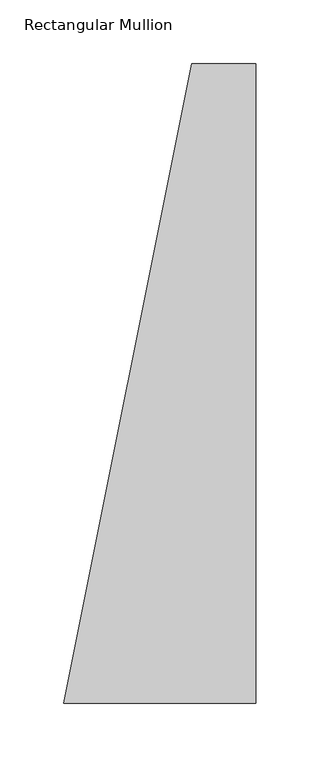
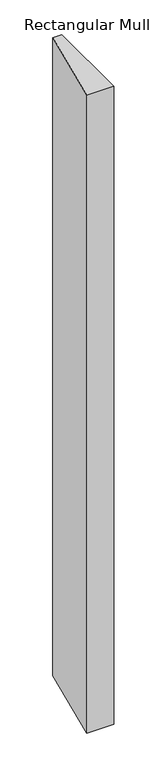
"""IFC4 building model written with IfcOpenShell, lengths in millimetres: member geometry, Rectangular Mullion : 500(350+150)x150x50mm."""

from ifc_helpers import new_model, si_unit, frame, origin, place, context, project, spatial, polyline, outline, extrude, source, transform, mapped, element, save


def rectangular_mullion_3366e762(model_context):
    return source(origin(), model_context, "Body", "SweptSolid", [
        extrude(outline(polyline([(0.0, 150.0), (0.0, -350.0), (-150.0, -350.0), (-50.0, 150.0), (0.0, 150.0)])), frame((0.0, 0.0, -3750.0), z_axis=(0.0, 0.0, 1.0), x_axis=(1.0, 0.0, 0.0)), (0.0, 0.0, 1.0), 3750.0),
    ])


if __name__ == "__main__":
    model = new_model("IFC4")
    model_context = context("Model", 3, world=origin())
    ifc_project = project(units=[si_unit("LENGTHUNIT", "METRE", prefix="MILLI")], contexts=[model_context])
    site = spatial("IfcSite", under=ifc_project)
    building = spatial("IfcBuilding", under=site)
    placement = place(None, origin())
    rectangular_mullion_shape = rectangular_mullion_3366e762(model_context)
    element("IfcMember", 1, ObjectType="Rectangular Mullion : 500(350+150)x150x50mm", at=placement, inside=building, context=model_context, shape_type="MappedRepresentation", body=[
        mapped(rectangular_mullion_shape, transform((0.0, 0.0, 0.0), x_axis=(1.0, 0.0, 0.0), y_axis=(0.0, 1.0, 0.0), z_axis=(0.0, 0.0, 1.0))),
    ])
    save(model, "model.ifc")
